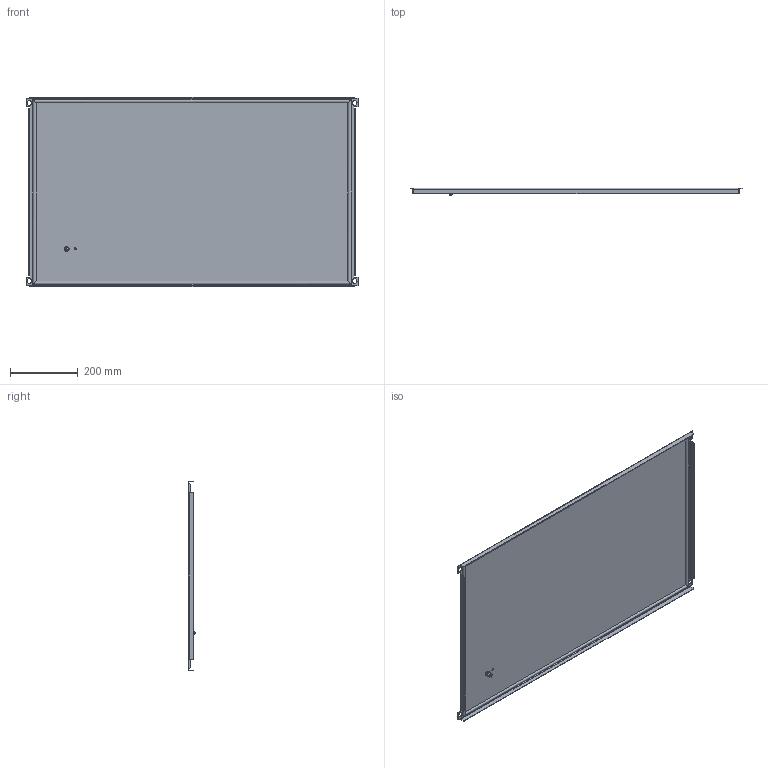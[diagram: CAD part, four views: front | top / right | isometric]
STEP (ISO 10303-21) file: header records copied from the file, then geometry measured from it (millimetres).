
FILE_DESCRIPTION (( 'STEP AP203' ), '1' );
FILE_NAME ('p2t106.STEP', '2016-02-29T15:20:17', ( '' ), ( '' ), 'SwSTEP 2.0', 'SolidWorks 2014', '' );
FILE_SCHEMA (( 'CONFIG_CONTROL_DESIGN' ));
Length unit declared in the file: millimetre
Products named in the file (8): 60100041_60100041; 89126757_WMT SLD TOP; 89126763_FIP GASKET; 89126758; 89126756_SLD TOP; p2t106; 87931527_87931527; 87931368_SLEEVE
Assembly tree (7 placements, depth 5):
  p2t106
    89126758
      89126757_WMT SLD TOP
        89126756_SLD TOP
        60100041_60100041
          87931527_87931527
          87931368_SLEEVE
      89126763_FIP GASKET
Bounding box: 979 x 23.2 x 559.04 mm (x, y, z)
Volume: 912575.6 mm3; surface area: 1235339 mm2
Topology: 4 solids, 4 shells, 153 faces, 364 edges, 224 vertices
Faces by surface type: plane 99, cylinder 48, cone 6
Entity records: 5210 total; most frequent: DIRECTION 786, CARTESIAN_POINT 762, ORIENTED_EDGE 720, EDGE_CURVE 360, AXIS2_PLACEMENT_3D 264, VECTOR 258, LINE 258, VERTEX_POINT 224
